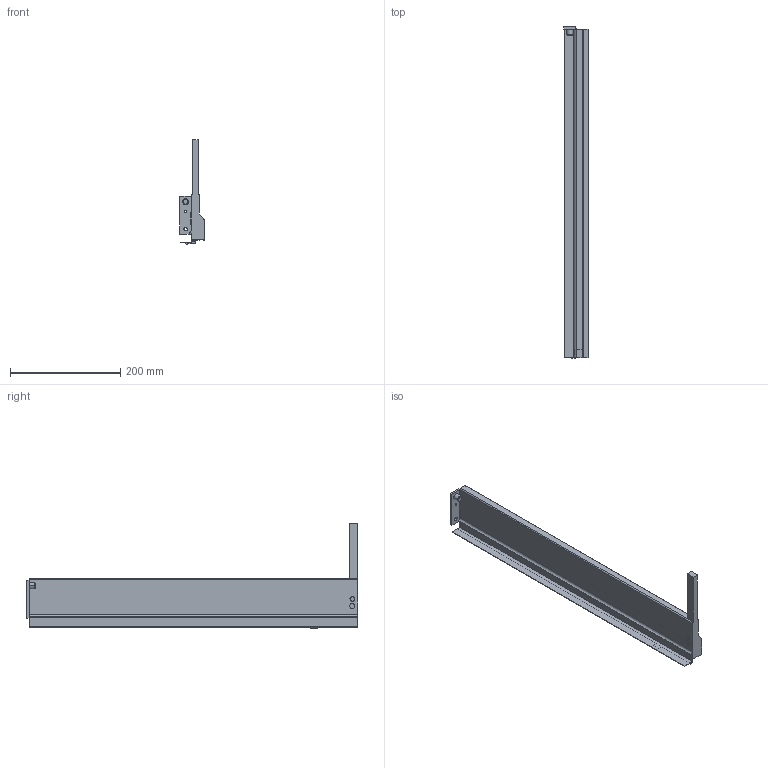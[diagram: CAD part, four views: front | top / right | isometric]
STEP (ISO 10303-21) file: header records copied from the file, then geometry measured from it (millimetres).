
FILE_DESCRIPTION (( 'STEP AP214' ), '1' );
FILE_NAME ('IMOS_NOVA-Pro_Crystal_Dekor-H90_CL_NL600_RE.step', '2010-09-28T09:47:06', ( 'Grass' ), ( '' ), 'SwSTEP 2.0', 'SolidWorks 2010', '' );
FILE_SCHEMA (( 'AUTOMOTIVE_DESIGN' ));
Length unit declared in the file: millimetre
Products named in the file (1): IMOS_NOVA-Pro_Crystal_Dekor-H90_CL_NL600_RE
Bounding box: 44.3 x 602.7 x 190.38 mm (x, y, z)
Volume: 544899.9 mm3; surface area: 212036.9 mm2
Topology: 1 solids, 1 shells, 94 faces, 256 edges, 169 vertices
Faces by surface type: plane 59, cylinder 30, cone 4, bspline 1
Entity records: 3009 total; most frequent: CARTESIAN_POINT 533, ORIENTED_EDGE 512, DIRECTION 506, EDGE_CURVE 256, LINE 190, VECTOR 190, VERTEX_POINT 169, AXIS2_PLACEMENT_3D 158
